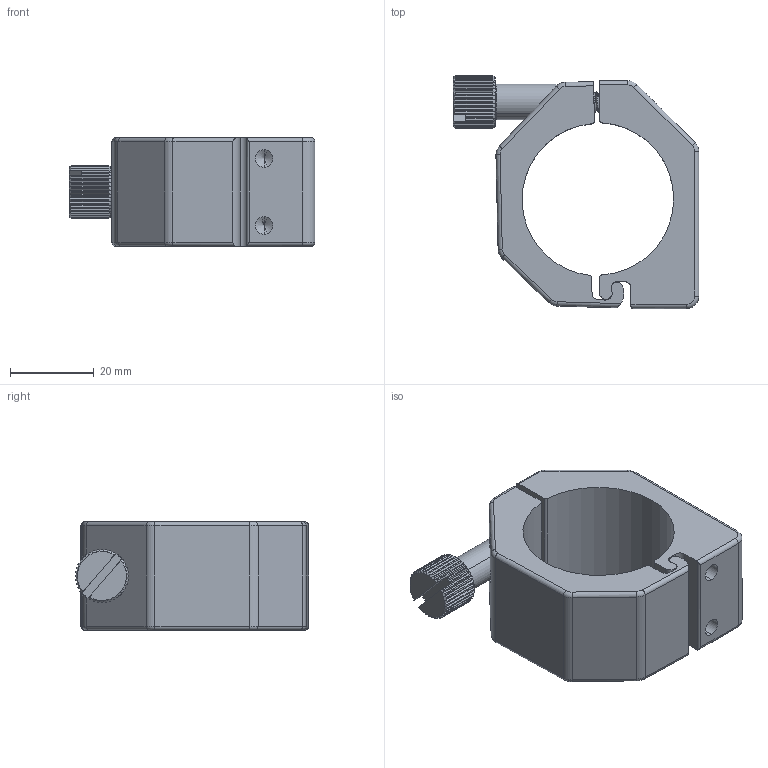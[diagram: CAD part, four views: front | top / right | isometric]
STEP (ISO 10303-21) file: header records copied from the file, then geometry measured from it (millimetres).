
FILE_DESCRIPTION (( 'STEP AP214' ), '1' );
FILE_NAME ('NEWTON-MOUNT-ASM-X2A.STEP', '2018-06-04T19:04:13', ( '' ), ( '' ), 'SwSTEP 2.0', 'SolidWorks 2016', '' );
FILE_SCHEMA (( 'AUTOMOTIVE_DESIGN' ));
Length unit declared in the file: millimetre
Products named in the file (4): NEWTON-MOUNT-ASM-X2A; NEWTON-M-MOUNT-KNURLED SCREW-R3_92095A212; NEWTON-M-MOUNT-INSIDE-R3; NEWTON-M-MOUNT-OUTSIDE-R3
Assembly tree (3 placements, depth 2):
  NEWTON-MOUNT-ASM-X2A
    NEWTON-M-MOUNT-INSIDE-R3
    NEWTON-M-MOUNT-OUTSIDE-R3
    NEWTON-M-MOUNT-KNURLED SCREW-R3_92095A212
Bounding box: 58.66 x 55.75 x 26 mm (x, y, z)
Volume: 32398.7 mm3; surface area: 13451.4 mm2
Topology: 3 solids, 4 shells, 300 faces, 817 edges, 525 vertices
Faces by surface type: cylinder 144, plane 118, cone 19, torus 16, bspline 3
Entity records: 13455 total; most frequent: CARTESIAN_POINT 6218, ORIENTED_EDGE 1626, DIRECTION 1360, EDGE_CURVE 813, VERTEX_POINT 525, AXIS2_PLACEMENT_3D 522, LINE 316, VECTOR 316
